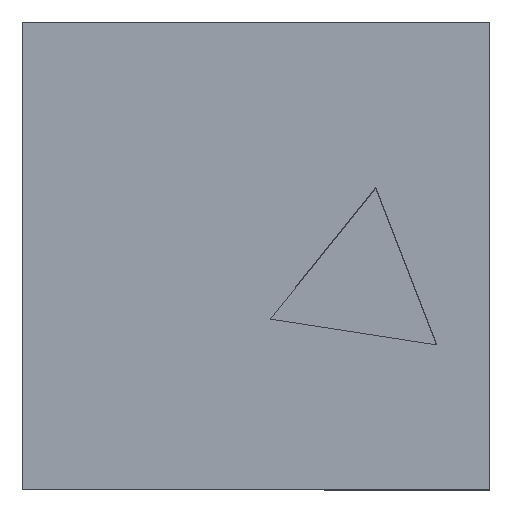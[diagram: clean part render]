
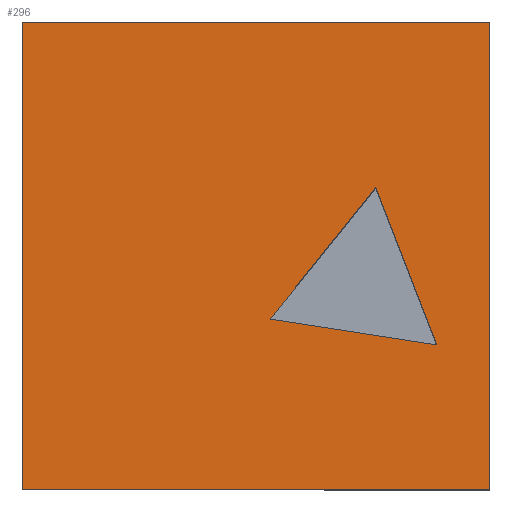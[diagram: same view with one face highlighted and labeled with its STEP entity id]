
A CAD part, top view. The second image highlights one B-rep face of the part: STEP entity #296.
In plain terms, the highlighted planar face has unit normal (0, 0, 1).
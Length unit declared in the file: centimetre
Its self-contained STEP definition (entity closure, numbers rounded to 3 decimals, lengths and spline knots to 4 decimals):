
#3 = LINE ( 'NONE', #213, #288 ) ;
#4 = LINE ( 'NONE', #154, #221 ) ;
#5 = ORIENTED_EDGE ( 'NONE', *, *, #331, .T. ) ;
#6 = CARTESIAN_POINT ( 'NONE',  ( 756.3022, 645.4642, 1000. ) ) ;
#10 = CARTESIAN_POINT ( 'NONE',  ( 886.92, 308.8597, 1000. ) ) ;
#26 = EDGE_LOOP ( 'NONE', ( #37, #5, #141, #244 ) ) ;
#37 = ORIENTED_EDGE ( 'NONE', *, *, #189, .T. ) ;
#63 = CARTESIAN_POINT ( 'NONE',  ( 0., 0., 1000. ) ) ;
#64 = VERTEX_POINT ( 'NONE', #163 ) ;
#66 = EDGE_CURVE ( 'NONE', #238, #295, #298, .T. ) ;
#70 = DIRECTION ( 'NONE',  ( 1., 0., 0. ) ) ;
#76 = VECTOR ( 'NONE', #126, 100. ) ;
#80 = DIRECTION ( 'NONE',  ( -0.362, 0.932, 0. ) ) ;
#93 = PLANE ( 'NONE',  #204 ) ;
#126 = DIRECTION ( 'NONE',  ( 0., 1., 0. ) ) ;
#128 = VECTOR ( 'NONE', #334, 100. ) ;
#130 = EDGE_CURVE ( 'NONE', #64, #392, #4, .T. ) ;
#131 = EDGE_LOOP ( 'NONE', ( #333, #345, #169 ) ) ;
#133 = CARTESIAN_POINT ( 'NONE',  ( 1000., 1000., 1000. ) ) ;
#141 = ORIENTED_EDGE ( 'NONE', *, *, #66, .T. ) ;
#145 = CARTESIAN_POINT ( 'NONE',  ( 0., 1000., 1000. ) ) ;
#154 = CARTESIAN_POINT ( 'NONE',  ( 530.103, 364.0436, 1000. ) ) ;
#159 = EDGE_CURVE ( 'NONE', #295, #197, #322, .T. ) ;
#163 = CARTESIAN_POINT ( 'NONE',  ( 530.103, 364.0436, 1000. ) ) ;
#169 = ORIENTED_EDGE ( 'NONE', *, *, #130, .F. ) ;
#177 = LINE ( 'NONE', #413, #360 ) ;
#189 = EDGE_CURVE ( 'NONE', #197, #341, #381, .T. ) ;
#197 = VERTEX_POINT ( 'NONE', #282 ) ;
#204 = AXIS2_PLACEMENT_3D ( 'NONE', #264, #277, #70 ) ;
#213 = CARTESIAN_POINT ( 'NONE',  ( 886.92, 308.8597, 1000. ) ) ;
#214 = CARTESIAN_POINT ( 'NONE',  ( 0., 1000., 1000. ) ) ;
#221 = VECTOR ( 'NONE', #353, 100. ) ;
#238 = VERTEX_POINT ( 'NONE', #439 ) ;
#244 = ORIENTED_EDGE ( 'NONE', *, *, #159, .T. ) ;
#253 = DIRECTION ( 'NONE',  ( -1., 0., 0. ) ) ;
#254 = CARTESIAN_POINT ( 'NONE',  ( 1000., 1000., 1000. ) ) ;
#264 = CARTESIAN_POINT ( 'NONE',  ( 0., 0., 1000. ) ) ;
#274 = FACE_OUTER_BOUND ( 'NONE', #26, .T. ) ;
#277 = DIRECTION ( 'NONE',  ( 0., 0., 1. ) ) ;
#282 = CARTESIAN_POINT ( 'NONE',  ( 0., 1000., 1000. ) ) ;
#283 = VECTOR ( 'NONE', #287, 100. ) ;
#287 = DIRECTION ( 'NONE',  ( 0., -1., 0. ) ) ;
#288 = VECTOR ( 'NONE', #80, 100. ) ;
#295 = VERTEX_POINT ( 'NONE', #133 ) ;
#296 = ADVANCED_FACE ( 'NONE', ( #401, #274 ), #93, .T. ) ;
#298 = LINE ( 'NONE', #254, #76 ) ;
#317 = DIRECTION ( 'NONE',  ( -0.626, -0.779, 0. ) ) ;
#322 = LINE ( 'NONE', #145, #398 ) ;
#331 = EDGE_CURVE ( 'NONE', #341, #238, #365, .T. ) ;
#333 = ORIENTED_EDGE ( 'NONE', *, *, #391, .F. ) ;
#334 = DIRECTION ( 'NONE',  ( 1., 0., 0. ) ) ;
#341 = VERTEX_POINT ( 'NONE', #403 ) ;
#345 = ORIENTED_EDGE ( 'NONE', *, *, #387, .F. ) ;
#353 = DIRECTION ( 'NONE',  ( 0.988, -0.153, 0. ) ) ;
#360 = VECTOR ( 'NONE', #317, 100. ) ;
#365 = LINE ( 'NONE', #63, #128 ) ;
#381 = LINE ( 'NONE', #214, #283 ) ;
#387 = EDGE_CURVE ( 'NONE', #392, #443, #3, .T. ) ;
#391 = EDGE_CURVE ( 'NONE', #443, #64, #177, .T. ) ;
#392 = VERTEX_POINT ( 'NONE', #10 ) ;
#398 = VECTOR ( 'NONE', #253, 100. ) ;
#401 = FACE_BOUND ( 'NONE', #131, .T. ) ;
#403 = CARTESIAN_POINT ( 'NONE',  ( 0., 0., 1000. ) ) ;
#413 = CARTESIAN_POINT ( 'NONE',  ( 756.3022, 645.4642, 1000. ) ) ;
#439 = CARTESIAN_POINT ( 'NONE',  ( 1000., 0., 1000. ) ) ;
#443 = VERTEX_POINT ( 'NONE', #6 ) ;
